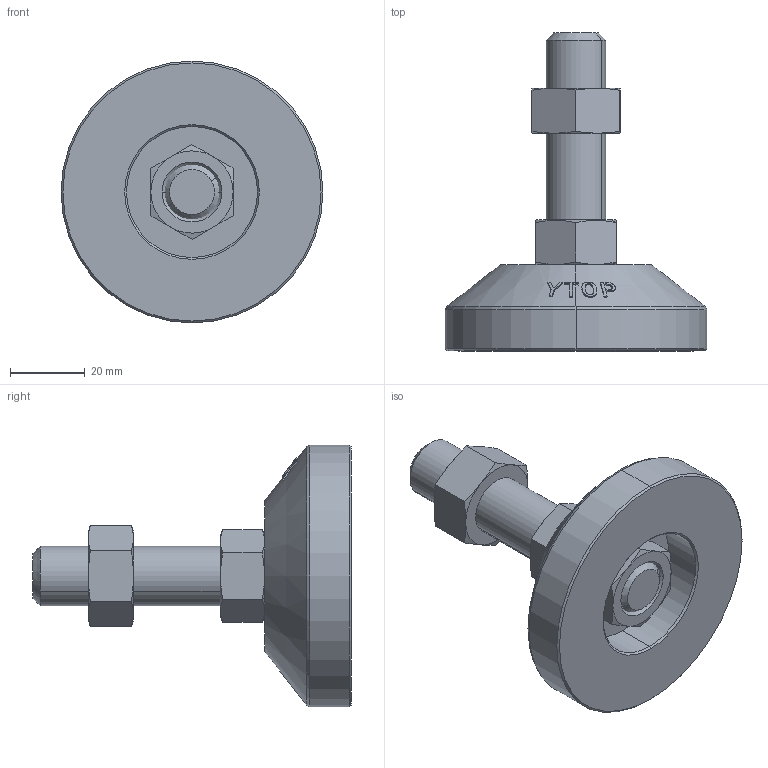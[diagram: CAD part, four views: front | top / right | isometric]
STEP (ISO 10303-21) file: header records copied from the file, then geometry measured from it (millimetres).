
FILE_DESCRIPTION (( 'STEP AP203' ), '1' );
FILE_NAME ('M-70-1650-S.STEP', '2020-09-10T06:58:15', ( '' ), ( '' ), 'SwSTEP 2.0', 'SolidWorks 2016', '' );
FILE_SCHEMA (( 'CONFIG_CONTROL_DESIGN' ));
Length unit declared in the file: millimetre
Products named in the file (5): M-70-1褐菜 ; 脚垫调节六角螺母M16; 不锈钢双头螺杆M16系列_M16X50; 脚垫锁紧六角薄螺母M16; M-70-1650-S
Assembly tree (4 placements, depth 2):
  M-70-1650-S
    M-70-1褐菜 
    不锈钢双头螺杆M16系列_M16X50
    脚垫锁紧六角薄螺母M16
    脚垫调节六角螺母M16
Bounding box: 70 x 85 x 70 mm (x, y, z)
Volume: 83979.6 mm3; surface area: 20692.1 mm2
Topology: 4 solids, 4 shells, 143 faces, 329 edges, 202 vertices
Faces by surface type: cone 62, bspline 38, plane 29, cylinder 14
Entity records: 8592 total; most frequent: CARTESIAN_POINT 5241, ORIENTED_EDGE 658, DIRECTION 457, EDGE_CURVE 329, VERTEX_POINT 202, AXIS2_PLACEMENT_3D 196, B_SPLINE_CURVE_WITH_KNOTS 180, EDGE_LOOP 157
